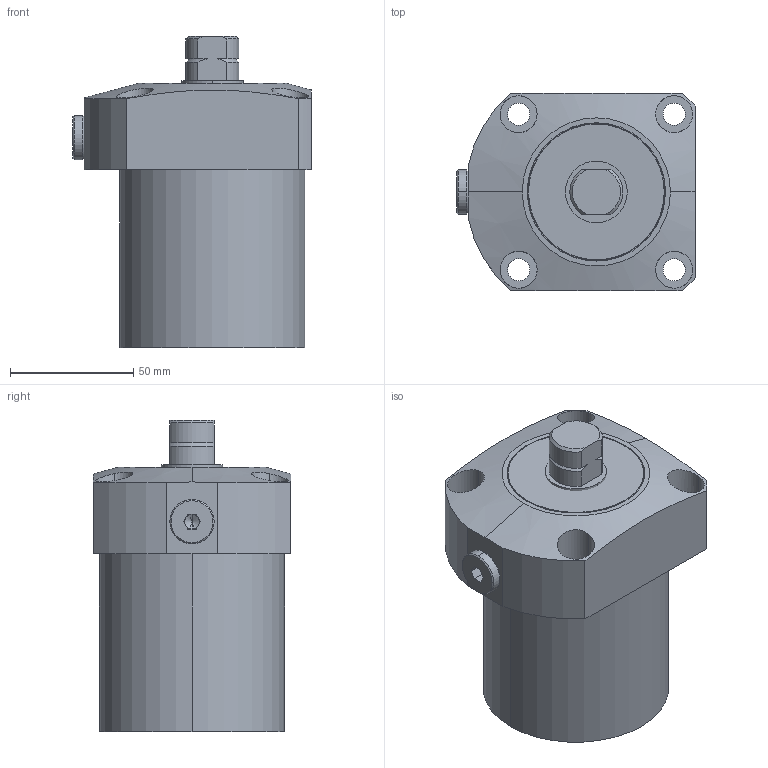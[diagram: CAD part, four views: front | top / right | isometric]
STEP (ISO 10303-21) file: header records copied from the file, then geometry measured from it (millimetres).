
FILE_DESCRIPTION (( 'STEP AP203' ), '1' );
FILE_NAME ('FW10-0755 Work support.STEP', '2022-07-09T17:13:32', ( '' ), ( '' ), 'SwSTEP 2.0', 'SolidWorks 2017', '' );
FILE_SCHEMA (( 'CONFIG_CONTROL_DESIGN' ));
Length unit declared in the file: millimetre
Products named in the file (4): FW10-0755; FW10-0755-part-2; FW10-0755-part-3; FW10-0755 Work support
Assembly tree (3 placements, depth 2):
  FW10-0755 Work support
    FW10-0755
    FW10-0755-part-2
    FW10-0755-part-3
Bounding box: 96.5 x 80 x 126 mm (x, y, z)
Volume: 566176.7 mm3; surface area: 53934.4 mm2
Topology: 3 solids, 17 shells, 274 faces, 664 edges, 434 vertices
Faces by surface type: plane 146, bspline 66, cylinder 42, cone 20
Entity records: 12604 total; most frequent: CARTESIAN_POINT 6190, ORIENTED_EDGE 1320, DIRECTION 1034, EDGE_CURVE 660, VERTEX_POINT 434, VECTOR 406, LINE 406, AXIS2_PLACEMENT_3D 314
